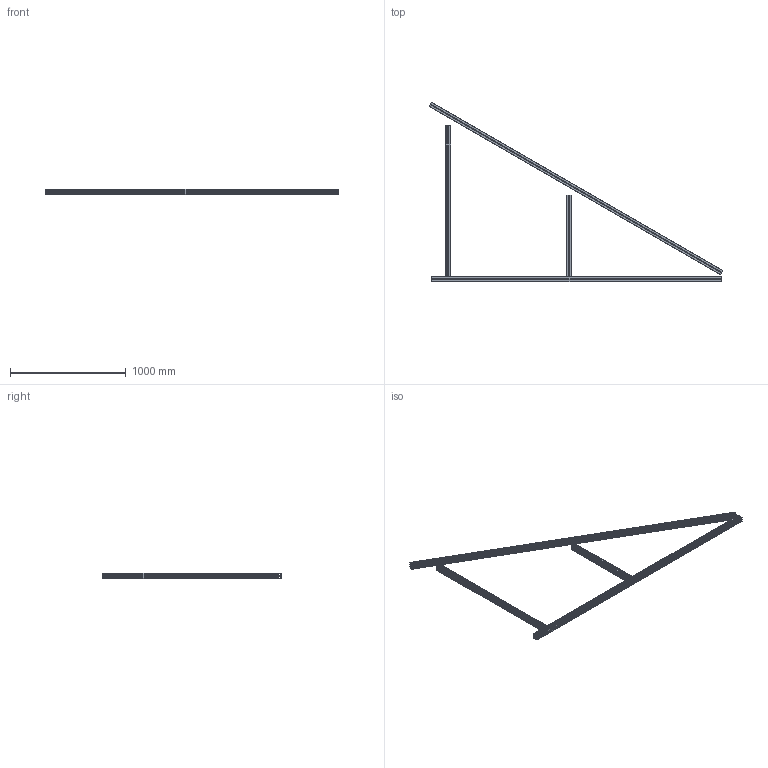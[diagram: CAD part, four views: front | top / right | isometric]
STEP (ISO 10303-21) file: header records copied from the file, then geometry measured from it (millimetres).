
FILE_DESCRIPTION (( 'STEP AP203' ), '1' );
FILE_NAME ('084.106.701.STEP', '2013-01-24T12:22:49', ( 'Alusic' ), ( 'Alusic' ), 'SwSTEP 2.0', 'SolidWorks 2011', '' );
FILE_SCHEMA (( 'CONFIG_CONTROL_DESIGN' ));
Length unit declared in the file: millimetre
Products named in the file (1): 084.106.701
Bounding box: 2533.97 x 1550.11 x 45 mm (x, y, z)
Volume: 4153485.5 mm3; surface area: 4175738.4 mm2
Topology: 4 solids, 4 shells, 632 faces, 1854 edges, 1228 vertices
Faces by surface type: plane 334, cylinder 298
Entity records: 21279 total; most frequent: CARTESIAN_POINT 3969, ORIENTED_EDGE 3708, DIRECTION 3592, EDGE_CURVE 1854, VECTOR 1266, LINE 1266, VERTEX_POINT 1228, AXIS2_PLACEMENT_3D 1163
